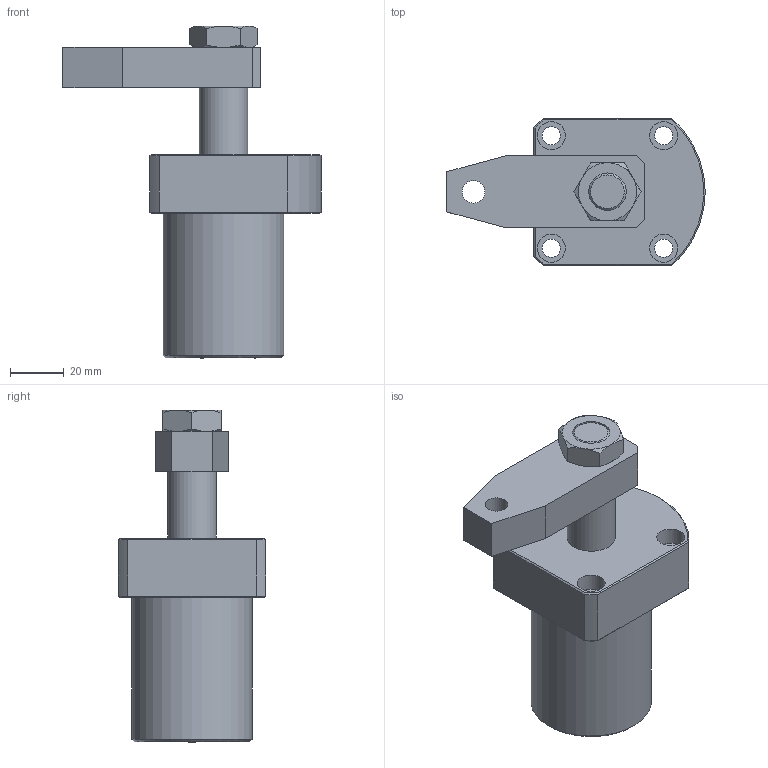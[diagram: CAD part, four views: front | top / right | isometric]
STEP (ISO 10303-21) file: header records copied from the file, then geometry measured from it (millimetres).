
FILE_DESCRIPTION(/* description */ ('Unknown'),/* implementation_level */ '2;1');
FILE_NAME(/* name */ 'HSC-FAM25S-A',/* time_stamp */ '2019-05-20T16:13:49+08:00',/* author */ ('Unknown'),/* organization */ ('Unknown'),/* preprocessor_version */ 'ST-DEVELOPER v16.7',/* originating_system */ 'DEX',/* authorisation */ $);
FILE_SCHEMA (('AUTOMOTIVE_DESIGN {1 0 10303 214 3 1 1}'));
Length unit declared in the file: millimetre
Products named in the file (4): HSC-FAM25S-A; HSC-FAM25D-CYLINDER; HSC-2502-S-AXLE CENTRE; HSC-25S-A
Assembly tree (3 placements, depth 2):
  HSC-FAM25S-A
    HSC-FAM25D-CYLINDER
    HSC-2502-S-AXLE CENTRE
    HSC-25S-A
Bounding box: 96.5 x 55 x 124 mm (x, y, z)
Volume: 178746.7 mm3; surface area: 39416.2 mm2
Topology: 3 solids, 3 shells, 104 faces, 209 edges, 131 vertices
Faces by surface type: plane 49, cone 26, cylinder 26, torus 3
Full cylindrical faces by diameter (mm): 2.5 x2, 4.1 x2, 6.8 x4, 8.5 x1, 9 x2, 10.5 x4, 14 x2, 15 x1, 18 x1, 18.001 x1, 24.601 x1, 25 x1, 45 x1
Entity records: 2945 total; most frequent: CARTESIAN_POINT 512, DIRECTION 432, ORIENTED_EDGE 336, AXIS2_PLACEMENT_3D 192, EDGE_LOOP 170, FACE_BOUND 170, EDGE_CURVE 168, VERTEX_POINT 124
